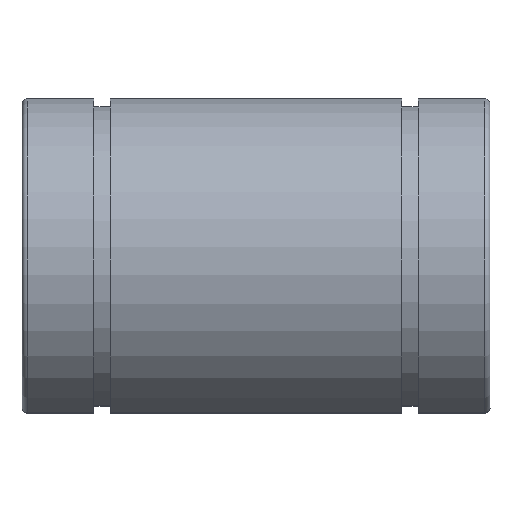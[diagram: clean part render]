
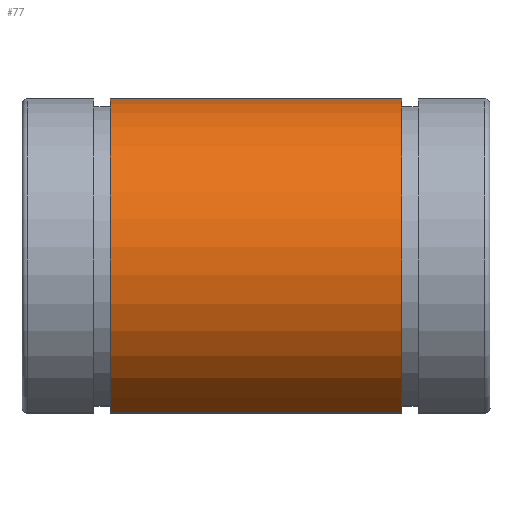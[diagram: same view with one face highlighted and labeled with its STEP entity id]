
A CAD part, top view. The second image highlights one B-rep face of the part: STEP entity #77.
In plain terms, the highlighted cylindrical face has radius 16 mm (diameter 32 mm), a partial arc.
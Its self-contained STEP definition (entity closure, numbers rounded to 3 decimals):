
#77=ADVANCED_FACE('',(#98,#99),#100,.T.);
#98=FACE_BOUND('',#136,.T.);
#99=FACE_OUTER_BOUND('',#137,.T.);
#100=CYLINDRICAL_SURFACE('',#138,16.0);
#136=EDGE_LOOP('',(#194));
#137=EDGE_LOOP('',(#195,#196,#197,#198));
#138=AXIS2_PLACEMENT_3D('',#199,#200,#201);
#194=ORIENTED_EDGE('',*,*,#329,.F.);
#195=ORIENTED_EDGE('',*,*,#330,.T.);
#196=ORIENTED_EDGE('',*,*,#331,.T.);
#197=ORIENTED_EDGE('',*,*,#332,.F.);
#198=ORIENTED_EDGE('',*,*,#319,.T.);
#199=CARTESIAN_POINT('',(-150.0,0.0,0.0));
#200=DIRECTION('',(1.0,-0.0,-0.0));
#201=DIRECTION('',(0.0,0.0,1.0));
#319=EDGE_CURVE('',#371,#369,#372,.F.);
#329=EDGE_CURVE('',#389,#389,#390,.T.);
#330=EDGE_CURVE('',#369,#391,#392,.T.);
#331=EDGE_CURVE('',#391,#393,#394,.T.);
#332=EDGE_CURVE('',#371,#393,#395,.T.);
#369=VERTEX_POINT('',#453);
#371=VERTEX_POINT('',#456);
#372=LINE('',#457,#458);
#389=VERTEX_POINT('',#490);
#390=B_SPLINE_CURVE_WITH_KNOTS('',3,(#491,#492,#493,#494,#495,#496,#497,#498,#499,#500,#501,#502,#503,#504,#505,#506,#507,#508,#509,#510,#511,#512,#513,#514,#515,#516,#517,#518,#519,#520,#521,#522,#523,#524,#525,#526,#527,#528,#529,#530,#531,#532,#533,#534,#535,#536,#537,#538,#539,#540,#541,#542),.UNSPECIFIED.,.T.,.F.,(2,2,2,2,2,2,2,2,2,2,2,2,2,2,2,2,2,2,2,2,2,2,2,2,2,2,2,2),(-0.001,0.0,0.,0.001,0.001,0.001,0.002,0.002,0.003,0.003,0.003,0.004,0.004,0.004,0.004,0.005,0.005,0.006,0.006,0.006,0.007,0.007,0.008,0.008,0.008,0.009,0.009,0.01),.UNSPECIFIED.);
#391=VERTEX_POINT('',#543);
#392=CIRCLE('',#544,16.0);
#393=VERTEX_POINT('',#545);
#394=LINE('',#546,#547);
#395=CIRCLE('',#548,16.0);
#453=CARTESIAN_POINT('',(14.0,-14.253,7.271));
#456=CARTESIAN_POINT('',(-14.0,-14.253,7.271));
#457=CARTESIAN_POINT('',(-150.0,-14.253,7.271));
#458=VECTOR('',#605,1.0);
#490=CARTESIAN_POINT('',(1.5,0.,-16.0));
#491=CARTESIAN_POINT('',(1.5,0.198,-16.0));
#492=CARTESIAN_POINT('',(1.5,-0.099,-16.0));
#493=CARTESIAN_POINT('',(1.49,-0.197,-15.999));
#494=CARTESIAN_POINT('',(1.452,-0.388,-15.996));
#495=CARTESIAN_POINT('',(1.423,-0.484,-15.993));
#496=CARTESIAN_POINT('',(1.348,-0.665,-15.986));
#497=CARTESIAN_POINT('',(1.302,-0.751,-15.983));
#498=CARTESIAN_POINT('',(1.193,-0.914,-15.974));
#499=CARTESIAN_POINT('',(1.13,-0.992,-15.969));
#500=CARTESIAN_POINT('',(0.922,-1.199,-15.956));
#501=CARTESIAN_POINT('',(0.755,-1.311,-15.946));
#502=CARTESIAN_POINT('',(0.394,-1.46,-15.933));
#503=CARTESIAN_POINT('',(0.197,-1.5,-15.93));
#504=CARTESIAN_POINT('',(-0.097,-1.5,-15.93));
#505=CARTESIAN_POINT('',(-0.196,-1.49,-15.93));
#506=CARTESIAN_POINT('',(-0.389,-1.452,-15.934));
#507=CARTESIAN_POINT('',(-0.482,-1.424,-15.937));
#508=CARTESIAN_POINT('',(-0.664,-1.349,-15.943));
#509=CARTESIAN_POINT('',(-0.752,-1.302,-15.947));
#510=CARTESIAN_POINT('',(-0.914,-1.193,-15.956));
#511=CARTESIAN_POINT('',(-0.99,-1.131,-15.96));
#512=CARTESIAN_POINT('',(-1.13,-0.991,-15.969));
#513=CARTESIAN_POINT('',(-1.192,-0.915,-15.974));
#514=CARTESIAN_POINT('',(-1.301,-0.753,-15.982));
#515=CARTESIAN_POINT('',(-1.348,-0.665,-15.986));
#516=CARTESIAN_POINT('',(-1.423,-0.484,-15.993));
#517=CARTESIAN_POINT('',(-1.452,-0.39,-15.996));
#518=CARTESIAN_POINT('',(-1.49,-0.198,-15.999));
#519=CARTESIAN_POINT('',(-1.5,-0.098,-16.));
#520=CARTESIAN_POINT('',(-1.5,0.195,-16.));
#521=CARTESIAN_POINT('',(-1.461,0.393,-15.996));
#522=CARTESIAN_POINT('',(-1.311,0.754,-15.983));
#523=CARTESIAN_POINT('',(-1.2,0.921,-15.974));
#524=CARTESIAN_POINT('',(-0.993,1.129,-15.96));
#525=CARTESIAN_POINT('',(-0.916,1.192,-15.956));
#526=CARTESIAN_POINT('',(-0.753,1.301,-15.947));
#527=CARTESIAN_POINT('',(-0.667,1.347,-15.943));
#528=CARTESIAN_POINT('',(-0.485,1.423,-15.937));
#529=CARTESIAN_POINT('',(-0.39,1.452,-15.934));
#530=CARTESIAN_POINT('',(-0.198,1.49,-15.93));
#531=CARTESIAN_POINT('',(-0.101,1.5,-15.93));
#532=CARTESIAN_POINT('',(0.197,1.5,-15.93));
#533=CARTESIAN_POINT('',(0.391,1.461,-15.933));
#534=CARTESIAN_POINT('',(0.664,1.349,-15.943));
#535=CARTESIAN_POINT('',(0.75,1.303,-15.947));
#536=CARTESIAN_POINT('',(0.913,1.194,-15.955));
#537=CARTESIAN_POINT('',(0.991,1.131,-15.96));
#538=CARTESIAN_POINT('',(1.198,0.923,-15.974));
#539=CARTESIAN_POINT('',(1.31,0.756,-15.983));
#540=CARTESIAN_POINT('',(1.46,0.395,-15.996));
#541=CARTESIAN_POINT('',(1.5,0.198,-16.0));
#542=CARTESIAN_POINT('',(1.5,-0.099,-16.0));
#543=CARTESIAN_POINT('',(14.0,-14.253,-7.271));
#544=AXIS2_PLACEMENT_3D('',#617,#618,#619);
#545=CARTESIAN_POINT('',(-14.0,-14.253,-7.271));
#546=CARTESIAN_POINT('',(-150.0,-14.253,-7.271));
#547=VECTOR('',#620,1.0);
#548=AXIS2_PLACEMENT_3D('',#621,#622,#623);
#605=DIRECTION('',(-1.0,0.0,0.0));
#617=CARTESIAN_POINT('',(14.0,0.0,0.0));
#618=DIRECTION('',(-1.0,0.0,0.0));
#619=DIRECTION('',(0.0,0.0,1.0));
#620=DIRECTION('',(-1.0,0.0,0.0));
#621=CARTESIAN_POINT('',(-14.0,0.0,0.0));
#622=DIRECTION('',(-1.0,0.0,0.0));
#623=DIRECTION('',(0.0,0.0,1.0));
